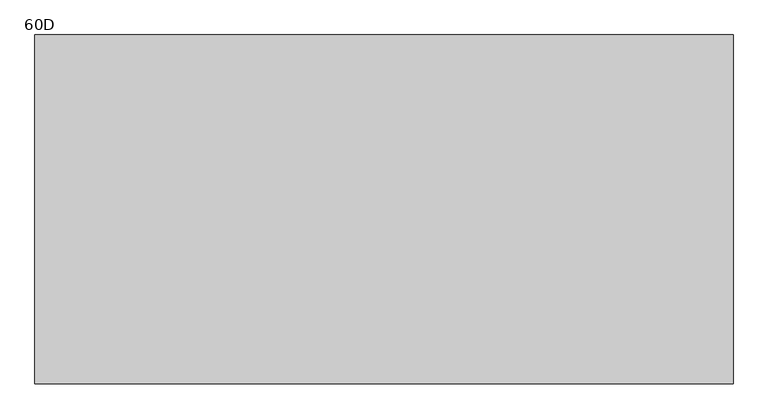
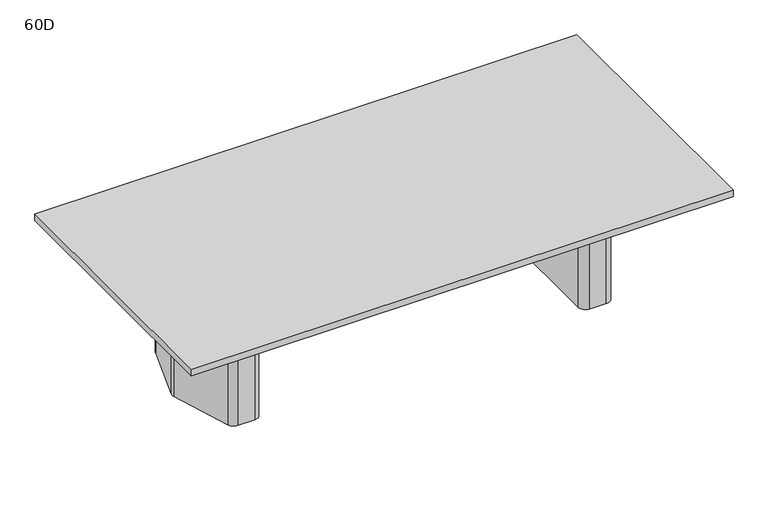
"""IFC4 building model written with IfcOpenShell, lengths in millimetres: furniture geometry, Coalesse_AM_Table_Conference_ETable2_Rectangular_10ft_TwoBase : 60D."""

from ifc_helpers import new_model, si_unit, point, frame, frame_2d, origin, origin_with_axes, place, context, project, spatial, polyline, circle_curve, trimmed, segment, composite_curve, outline, extrude, source, transform, mapped, element, save


def furniture_60d_8dbd3de3(model_context):
    return source(origin(), model_context, "Body", "SweptSolid", [
        extrude(outline(composite_curve([segment(polyline([(1122.3625, 101.7236478), (1122.3625, -97.2761514)]), True, "CONTINUOUS"), segment(trimmed(circle_curve(frame_2d((1084.2625, -97.2761514)), 38.1), [point((1122.3625, -97.2761514))], [point((1120.5991129, -108.7330515))], False, "CARTESIAN"), True, "CONTINUOUS"), segment(polyline([(1120.5991129, -108.7330515), (1062.1745591, -294.0319001)]), True, "CONTINUOUS"), segment(trimmed(circle_curve(frame_2d((1025.8379462, -282.575)), 38.1), [point((1062.1745591, -294.0319001))], [point((1025.8379462, -320.675))], False, "CARTESIAN"), True, "CONTINUOUS"), segment(polyline([(1025.8379462, -320.675), (958.85, -320.675)]), True, "CONTINUOUS"), segment(trimmed(circle_curve(frame_2d((958.85, -282.575)), 38.1), [point((958.85, -320.675))], [point((920.75, -282.575))], False, "CARTESIAN"), True, "CONTINUOUS"), segment(polyline([(920.75, -282.575), (920.75, 282.575)]), True, "CONTINUOUS"), segment(trimmed(circle_curve(frame_2d((958.85, 282.575)), 38.1), [point((920.75, 282.575))], [point((958.85, 320.675))], False, "CARTESIAN"), True, "CONTINUOUS"), segment(polyline([(958.85, 320.675), (1029.5873998, 320.675)]), True, "CONTINUOUS"), segment(trimmed(circle_curve(frame_2d((1029.5873998, 282.575)), 38.1), [point((1029.5873998, 320.675))], [point((1066.0572049, 293.6005756))], False, "CARTESIAN"), True, "CONTINUOUS"), segment(polyline([(1066.0572049, 293.6005756), (1120.7323051, 112.7492234)]), True, "CONTINUOUS"), segment(trimmed(circle_curve(frame_2d((1084.2625, 101.7236478)), 38.1), [point((1120.7323051, 112.7492234))], [point((1122.3625, 101.7236478))], False, "CARTESIAN"), True, "CONTINUOUS")], self_intersect=False)), origin_with_axes(), (0.0, 0.0, 1.0), 3.175),
        extrude(outline(composite_curve([segment(polyline([(942.975, 381.0), (1031.1221663, 381.0)]), True, "CONTINUOUS"), segment(trimmed(circle_curve(frame_2d((1031.1221663, 339.725)), 41.275), [point((1031.1221663, 381.0))], [point((1070.4868303, 352.1366418))], False, "CARTESIAN"), True, "CONTINUOUS"), segment(polyline([(1070.4868303, 352.1366418), (1177.6018053, 12.4116418)]), True, "CONTINUOUS"), segment(trimmed(circle_curve(frame_2d((1138.2371413, 0.0)), 41.275), [point((1177.6018053, 12.4116418))], [point((1177.6018053, -12.4116418))], False, "CARTESIAN"), True, "CONTINUOUS"), segment(polyline([(1177.6018053, -12.4116418), (1070.4868303, -352.1366418)]), True, "CONTINUOUS"), segment(trimmed(circle_curve(frame_2d((1031.1221663, -339.725)), 41.275), [point((1070.4868303, -352.1366418))], [point((1031.1221663, -381.0))], False, "CARTESIAN"), True, "CONTINUOUS"), segment(polyline([(1031.1221663, -381.0), (936.625, -381.0)]), True, "CONTINUOUS"), segment(trimmed(circle_curve(frame_2d((936.625, -339.725)), 41.275), [point((936.625, -381.0))], [point((895.35, -339.725))], False, "CARTESIAN"), True, "CONTINUOUS"), segment(polyline([(895.35, -339.725), (895.35, 333.375)]), True, "CONTINUOUS"), segment(trimmed(circle_curve(frame_2d((942.975, 333.375)), 47.625), [point((895.35, 333.375))], [point((942.975, 381.0))], False, "CARTESIAN"), True, "CONTINUOUS")], self_intersect=False), holes=[composite_curve([segment(trimmed(circle_curve(frame_2d((958.85, -282.575)), 25.4), [point((933.45, -282.575))], [point((958.85, -307.975))], True, "CARTESIAN"), True, "CONTINUOUS"), segment(polyline([(958.85, -307.975), (1025.8379462, -307.975)]), True, "CONTINUOUS"), segment(trimmed(circle_curve(frame_2d((1025.8379462, -282.575)), 25.4), [point((1025.8379462, -307.975))], [point((1050.0623548, -290.2129334))], True, "CARTESIAN"), True, "CONTINUOUS"), segment(polyline([(1050.0623548, -290.2129334), (1108.4869086, -104.9140848)]), True, "CONTINUOUS"), segment(trimmed(circle_curve(frame_2d((1084.2625, -97.2761514)), 25.4), [point((1108.4869086, -104.9140848))], [point((1109.6625, -97.2761514))], True, "CARTESIAN"), True, "CONTINUOUS"), segment(polyline([(1109.6625, -97.2761514), (1109.6625, 101.7236478)]), True, "CONTINUOUS"), segment(trimmed(circle_curve(frame_2d((1084.2625, 101.7236478)), 25.4), [point((1109.6625, 101.7236478))], [point((1108.5757034, 109.0740316))], True, "CARTESIAN"), True, "CONTINUOUS"), segment(polyline([(1108.5757034, 109.0740316), (1053.9006032, 289.9253837)]), True, "CONTINUOUS"), segment(trimmed(circle_curve(frame_2d((1029.5873998, 282.575)), 25.4), [point((1053.9006032, 289.9253837))], [point((1029.5873998, 307.975))], True, "CARTESIAN"), True, "CONTINUOUS"), segment(polyline([(1029.5873998, 307.975), (958.85, 307.975)]), True, "CONTINUOUS"), segment(trimmed(circle_curve(frame_2d((958.85, 282.575)), 25.4), [point((958.85, 307.975))], [point((933.45, 282.575))], True, "CARTESIAN"), True, "CONTINUOUS"), segment(polyline([(933.45, 282.575), (933.45, -282.575)]), True, "CONTINUOUS")], self_intersect=False)]), frame((0.0, 0.0, 3.175), z_axis=(0.0, 0.0, 1.0), x_axis=(1.0, 0.0, 0.0)), (0.0, 0.0, 1.0), 695.325),
        extrude(outline(composite_curve([segment(trimmed(circle_curve(frame_2d((-1095.375, 101.7236478)), 38.1), [point((-1133.475, 101.7236478))], [point((-1131.8448051, 112.7492234))], False, "CARTESIAN"), True, "CONTINUOUS"), segment(polyline([(-1131.8448051, 112.7492234), (-1077.1697049, 293.6005756)]), True, "CONTINUOUS"), segment(trimmed(circle_curve(frame_2d((-1040.6998998, 282.575)), 38.1), [point((-1077.1697049, 293.6005756))], [point((-1040.6998998, 320.675))], False, "CARTESIAN"), True, "CONTINUOUS"), segment(polyline([(-1040.6998998, 320.675), (-969.9625, 320.675)]), True, "CONTINUOUS"), segment(trimmed(circle_curve(frame_2d((-969.9625, 282.575)), 38.1), [point((-969.9625, 320.675))], [point((-931.8625, 282.575))], False, "CARTESIAN"), True, "CONTINUOUS"), segment(polyline([(-931.8625, 282.575), (-931.8625, -282.575)]), True, "CONTINUOUS"), segment(trimmed(circle_curve(frame_2d((-969.9625, -282.575)), 38.1), [point((-931.8625, -282.575))], [point((-969.9625, -320.675))], False, "CARTESIAN"), True, "CONTINUOUS"), segment(polyline([(-969.9625, -320.675), (-1036.9504462, -320.675)]), True, "CONTINUOUS"), segment(trimmed(circle_curve(frame_2d((-1036.9504462, -282.575)), 38.1), [point((-1036.9504462, -320.675))], [point((-1073.2870591, -294.0319001))], False, "CARTESIAN"), True, "CONTINUOUS"), segment(polyline([(-1073.2870591, -294.0319001), (-1131.7116129, -108.7330515)]), True, "CONTINUOUS"), segment(trimmed(circle_curve(frame_2d((-1095.375, -97.2761514)), 38.1), [point((-1131.7116129, -108.7330515))], [point((-1133.475, -97.2761514))], False, "CARTESIAN"), True, "CONTINUOUS"), segment(polyline([(-1133.475, -97.2761514), (-1133.475, 101.7236478)]), True, "CONTINUOUS")], self_intersect=False)), origin_with_axes(), (0.0, 0.0, 1.0), 3.175),
        extrude(outline(composite_curve([segment(trimmed(circle_curve(frame_2d((-954.0875, 333.375)), 47.625), [point((-954.0875, 381.0))], [point((-906.4625, 333.375))], False, "CARTESIAN"), True, "CONTINUOUS"), segment(polyline([(-906.4625, 333.375), (-906.4625, -339.725)]), True, "CONTINUOUS"), segment(trimmed(circle_curve(frame_2d((-947.7375, -339.725)), 41.275), [point((-906.4625, -339.725))], [point((-947.7375, -381.0))], False, "CARTESIAN"), True, "CONTINUOUS"), segment(polyline([(-947.7375, -381.0), (-1042.2346663, -381.0)]), True, "CONTINUOUS"), segment(trimmed(circle_curve(frame_2d((-1042.2346663, -339.725)), 41.275), [point((-1042.2346663, -381.0))], [point((-1081.5993303, -352.1366418))], False, "CARTESIAN"), True, "CONTINUOUS"), segment(polyline([(-1081.5993303, -352.1366418), (-1188.7143053, -12.4116418)]), True, "CONTINUOUS"), segment(trimmed(circle_curve(frame_2d((-1149.3496413, 0.0)), 41.275), [point((-1188.7143053, -12.4116418))], [point((-1188.7143053, 12.4116418))], False, "CARTESIAN"), True, "CONTINUOUS"), segment(polyline([(-1188.7143053, 12.4116418), (-1081.5993303, 352.1366418)]), True, "CONTINUOUS"), segment(trimmed(circle_curve(frame_2d((-1042.2346663, 339.725)), 41.275), [point((-1081.5993303, 352.1366418))], [point((-1042.2346663, 381.0))], False, "CARTESIAN"), True, "CONTINUOUS"), segment(polyline([(-1042.2346663, 381.0), (-954.0875, 381.0)]), True, "CONTINUOUS")], self_intersect=False), holes=[composite_curve([segment(polyline([(-944.5625, -282.575), (-944.5625, 282.575)]), True, "CONTINUOUS"), segment(trimmed(circle_curve(frame_2d((-969.9625, 282.575)), 25.4), [point((-944.5625, 282.575))], [point((-969.9625, 307.975))], True, "CARTESIAN"), True, "CONTINUOUS"), segment(polyline([(-969.9625, 307.975), (-1040.6998998, 307.975)]), True, "CONTINUOUS"), segment(trimmed(circle_curve(frame_2d((-1040.6998998, 282.575)), 25.4), [point((-1040.6998998, 307.975))], [point((-1065.0131032, 289.9253837))], True, "CARTESIAN"), True, "CONTINUOUS"), segment(polyline([(-1065.0131032, 289.9253837), (-1119.6882034, 109.0740316)]), True, "CONTINUOUS"), segment(trimmed(circle_curve(frame_2d((-1095.375, 101.7236478)), 25.4), [point((-1119.6882034, 109.0740316))], [point((-1120.775, 101.7236478))], True, "CARTESIAN"), True, "CONTINUOUS"), segment(polyline([(-1120.775, 101.7236478), (-1120.775, -97.2761514)]), True, "CONTINUOUS"), segment(trimmed(circle_curve(frame_2d((-1095.375, -97.2761514)), 25.4), [point((-1120.775, -97.2761514))], [point((-1119.5994086, -104.9140848))], True, "CARTESIAN"), True, "CONTINUOUS"), segment(polyline([(-1119.5994086, -104.9140848), (-1061.1748548, -290.2129334)]), True, "CONTINUOUS"), segment(trimmed(circle_curve(frame_2d((-1036.9504462, -282.575)), 25.4), [point((-1061.1748548, -290.2129334))], [point((-1036.9504462, -307.975))], True, "CARTESIAN"), True, "CONTINUOUS"), segment(polyline([(-1036.9504462, -307.975), (-969.9625, -307.975)]), True, "CONTINUOUS"), segment(trimmed(circle_curve(frame_2d((-969.9625, -282.575)), 25.4), [point((-969.9625, -307.975))], [point((-944.5625, -282.575))], True, "CARTESIAN"), True, "CONTINUOUS")], self_intersect=False)]), frame((0.0, 0.0, 3.175), z_axis=(0.0, 0.0, 1.0), x_axis=(1.0, 0.0, 0.0)), (0.0, 0.0, 1.0), 695.325),
        extrude(outline(polyline([(96.8375, 698.5), (103.1875, 698.5), (103.1875, 476.25), (-103.1875, 476.25), (-103.1875, 698.5), (-96.8375, 698.5), (-96.8375, 482.6), (96.8375, 482.6), (96.8375, 698.5)])), frame((-906.4625, 0.0, 0.0), z_axis=(1.0, 0.0, 0.0), x_axis=(0.0, 1.0, 0.0)), (0.0, 0.0, 1.0), 1801.8125),
        extrude(outline(polyline([(1524.0, 762.0), (1524.0, -762.0), (-1524.0, -762.0), (-1524.0, 762.0), (1524.0, 762.0)])), frame((0.0, 0.0, 698.5), z_axis=(0.0, 0.0, 1.0), x_axis=(1.0, 0.0, 0.0)), (0.0, 0.0, 1.0), 38.1),
    ])


if __name__ == "__main__":
    model = new_model("IFC4")
    model_context = context("Model", 3, world=origin())
    ifc_project = project(units=[si_unit("LENGTHUNIT", "METRE", prefix="MILLI")], contexts=[model_context])
    site = spatial("IfcSite", under=ifc_project)
    building = spatial("IfcBuilding", under=site)
    placement = place(None, origin())
    furniture_60d_shape = furniture_60d_8dbd3de3(model_context)
    element("IfcFurniture", 1, ObjectType="Coalesse_AM_Table_Conference_ETable2_Rectangular_10ft_TwoBase : 60D", at=placement, inside=building, context=model_context, shape_type="MappedRepresentation", body=[
        mapped(furniture_60d_shape, transform((0.0, 0.0, 0.0), x_axis=(1.0, 0.0, 0.0), y_axis=(0.0, 1.0, 0.0), z_axis=(0.0, 0.0, 1.0))),
    ])
    save(model, "model.ifc")
